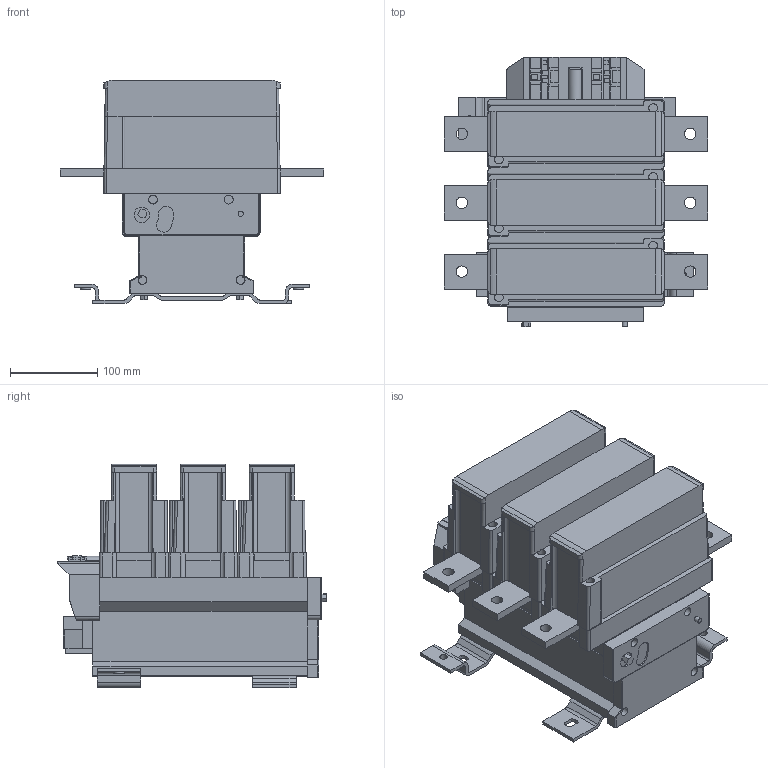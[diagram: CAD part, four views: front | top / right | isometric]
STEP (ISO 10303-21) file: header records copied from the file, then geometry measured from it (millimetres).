
FILE_DESCRIPTION(/* description */ (''),/* implementation_level */ '2;1');
FILE_NAME(/* name */ 'ck3-630',/* time_stamp */ '2022-08-31T16:33:42+08:00',/* author */ (''),/* organization */ (''),/* preprocessor_version */ 'ST-DEVELOPER v14',/* originating_system */ 'SIEMENS PLM Software NX 8.0',/* authorisation */ '');
FILE_SCHEMA (('AP203_CONFIGURATION_CONTROLLED_3D_DESIGN_OF_MECHANICAL_PARTS_AND_ASSEMBLIES_MIM_LF { 1 0 10303 403 2 1 2}'));
Length unit declared in the file: millimetre
Products named in the file (1): Admi1E38C561gkcp
Bounding box: 302 x 308.8 x 256 mm (x, y, z)
Volume: 9173520.2 mm3; surface area: 512440.3 mm2
Topology: 1 solids, 1 shells, 726 faces, 2032 edges, 1329 vertices
Faces by surface type: plane 547, cylinder 177, torus 2
Full cylindrical faces by diameter (mm): 6 x1, 8.5 x2, 10 x6, 10.02 x6, 12 x2, 13 x6, 18 x2
Entity records: 23008 total; most frequent: CARTESIAN_POINT 4063, ORIENTED_EDGE 3978, DIRECTION 3818, EDGE_CURVE 1989, LINE 1590, VECTOR 1590, VERTEX_POINT 1311, AXIS2_PLACEMENT_3D 1114
